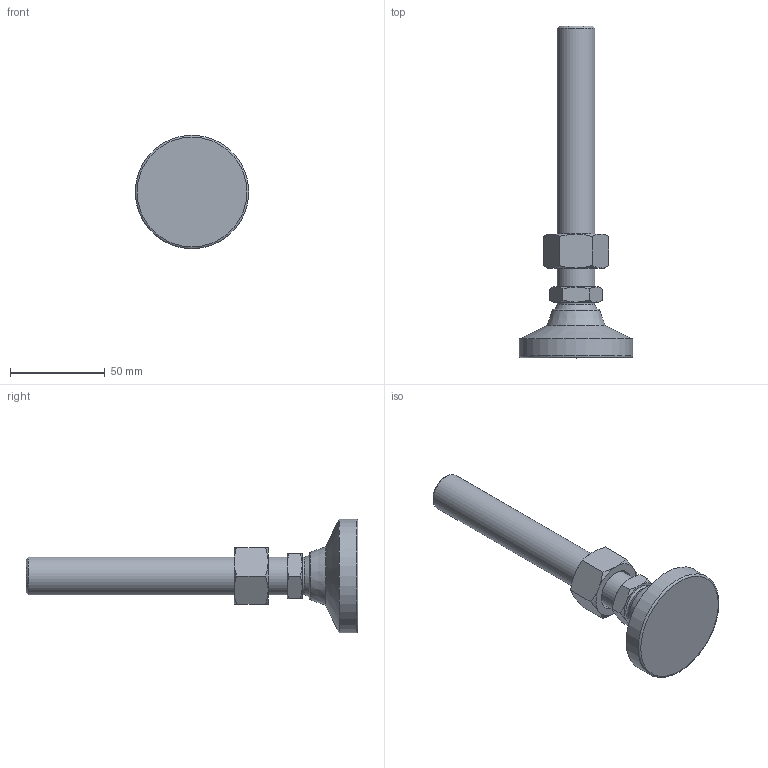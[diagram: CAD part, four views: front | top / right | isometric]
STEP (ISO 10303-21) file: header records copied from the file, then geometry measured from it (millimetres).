
FILE_DESCRIPTION( ( 'STEP AP214' ), ' ' );
FILE_NAME( 'O:/ganter_2015/teil_2/2_5/gn343_2/gn343_2_kse/Levelling foot with threaded stud GN 343.2-60-M20-138-KSE-(0).stp', '2015-10-26T09:17:34', ( '' ), ( '' ), ' ', 'PARTsolutions', ' ' );
FILE_SCHEMA( ( 'AUTOMOTIVE_DESIGN { 1 0 10303 214 1 1 1 1 }' ) );
Length unit declared in the file: millimetre
Products named in the file (4): Levelling foot with threaded stud GN 343.2-60-M20-138-KSE-(0); _Levelling foot with threaded stud GN 343.2-60-M20-138-KSE-(0)_foot; _Levelling foot with threaded stud GN 343.2-60-M20-138-KSE-(0)_screw; _Levelling foot with threaded stud GN 343.2-60-M20-138-KSE-(0)_nut
Assembly tree (3 placements, depth 2):
  Levelling foot with threaded stud GN 343.2-60-M20-138-KSE-(0)
    _Levelling foot with threaded stud GN 343.2-60-M20-138-KSE-(0)_foot
    _Levelling foot with threaded stud GN 343.2-60-M20-138-KSE-(0)_screw
    _Levelling foot with threaded stud GN 343.2-60-M20-138-KSE-(0)_nut
Bounding box: 60 x 175.5 x 60 mm (x, y, z)
Volume: 103473.9 mm3; surface area: 24044.5 mm2
Topology: 3 solids, 3 shells, 56 faces, 117 edges, 68 vertices
Faces by surface type: cone 29, plane 19, torus 3, cylinder 3, sphere 2
Full cylindrical faces by diameter (mm): 17.294 x1, 20 x1, 60 x1
Entity records: 2090 total; most frequent: CARTESIAN_POINT 522, DIRECTION 212, ORIENTED_EDGE 200, AXIS2_PLACEMENT_3D 100, EDGE_CURVE 100, EDGE_LOOP 72, VERTEX_POINT 66, FACE_OUTER_BOUND 62
